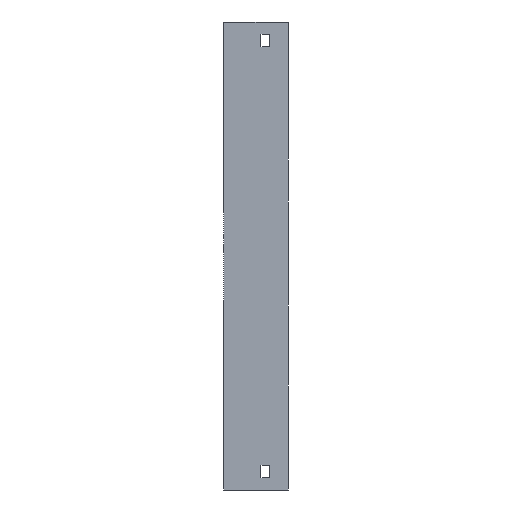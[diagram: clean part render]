
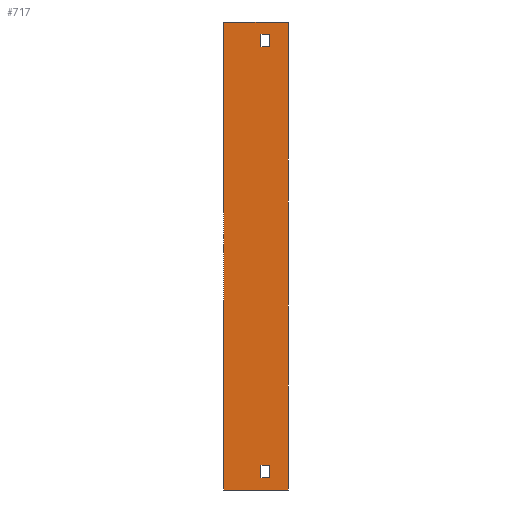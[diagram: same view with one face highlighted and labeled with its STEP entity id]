
A CAD part, left-side view. The second image highlights one B-rep face of the part: STEP entity #717.
In plain terms, the highlighted planar face has unit normal (-1, 0, 0).
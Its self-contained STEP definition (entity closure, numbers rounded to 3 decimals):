
#2 = DIRECTION ( 'NONE',  ( 0., 1., 0. ) ) ;
#7 = DIRECTION ( 'NONE',  ( 0., -1., 0. ) ) ;
#16 = DIRECTION ( 'NONE',  ( 1., 0., 0. ) ) ;
#27 = CARTESIAN_POINT ( 'NONE',  ( -179., 22., 40. ) ) ;
#54 = LINE ( 'NONE', #1207, #1412 ) ;
#65 = EDGE_CURVE ( 'NONE', #1439, #1301, #411, .T. ) ;
#67 = EDGE_CURVE ( 'NONE', #437, #972, #865, .T. ) ;
#85 = CARTESIAN_POINT ( 'NONE',  ( -179., 15., 40. ) ) ;
#101 = VECTOR ( 'NONE', #7, 1000. ) ;
#117 = EDGE_CURVE ( 'NONE', #1592, #1636, #1657, .T. ) ;
#143 = CARTESIAN_POINT ( 'NONE',  ( -179., 15., 40. ) ) ;
#146 = ORIENTED_EDGE ( 'NONE', *, *, #241, .F. ) ;
#148 = VERTEX_POINT ( 'NONE', #1671 ) ;
#188 = DIRECTION ( 'NONE',  ( 0., -1., 0. ) ) ;
#236 = CARTESIAN_POINT ( 'NONE',  ( -179., 22., -319. ) ) ;
#241 = EDGE_CURVE ( 'NONE', #1900, #1439, #54, .T. ) ;
#259 = VECTOR ( 'NONE', #987, 1000. ) ;
#268 = CARTESIAN_POINT ( 'NONE',  ( -179., 22., -309. ) ) ;
#288 = DIRECTION ( 'NONE',  ( 0., 1., 0. ) ) ;
#353 = CARTESIAN_POINT ( 'NONE',  ( -179., 52., -329. ) ) ;
#358 = VERTEX_POINT ( 'NONE', #236 ) ;
#370 = CARTESIAN_POINT ( 'NONE',  ( -179., 15., -309. ) ) ;
#385 = LINE ( 'NONE', #825, #1290 ) ;
#411 = LINE ( 'NONE', #268, #1158 ) ;
#417 = ORIENTED_EDGE ( 'NONE', *, *, #1246, .T. ) ;
#437 = VERTEX_POINT ( 'NONE', #85 ) ;
#479 = FACE_BOUND ( 'NONE', #851, .T. ) ;
#494 = CARTESIAN_POINT ( 'NONE',  ( -179., 15., 30. ) ) ;
#550 = ORIENTED_EDGE ( 'NONE', *, *, #772, .T. ) ;
#578 = ORIENTED_EDGE ( 'NONE', *, *, #65, .F. ) ;
#609 = VECTOR ( 'NONE', #1679, 1000. ) ;
#638 = LINE ( 'NONE', #353, #1792 ) ;
#659 = VERTEX_POINT ( 'NONE', #1072 ) ;
#672 = VECTOR ( 'NONE', #2, 1000. ) ;
#677 = EDGE_CURVE ( 'NONE', #972, #1592, #1528, .T. ) ;
#686 = CARTESIAN_POINT ( 'NONE',  ( -179., 0., -329. ) ) ;
#698 = DIRECTION ( 'NONE',  ( 0., 0., -1. ) ) ;
#699 = EDGE_LOOP ( 'NONE', ( #1639, #1058, #907, #550 ) ) ;
#717 = ADVANCED_FACE ( 'NONE', ( #1235, #479, #1802 ), #1520, .F. ) ;
#731 = VECTOR ( 'NONE', #1483, 1000. ) ;
#764 = AXIS2_PLACEMENT_3D ( 'NONE', #1218, #16, #1845 ) ;
#772 = EDGE_CURVE ( 'NONE', #148, #1713, #638, .T. ) ;
#821 = LINE ( 'NONE', #1254, #259 ) ;
#825 = CARTESIAN_POINT ( 'NONE',  ( -179., 0., -329. ) ) ;
#831 = EDGE_CURVE ( 'NONE', #358, #1900, #1348, .T. ) ;
#850 = EDGE_CURVE ( 'NONE', #1301, #358, #1511, .T. ) ;
#851 = EDGE_LOOP ( 'NONE', ( #1542, #417, #1423, #1354 ) ) ;
#865 = LINE ( 'NONE', #143, #731 ) ;
#900 = CARTESIAN_POINT ( 'NONE',  ( -179., 15., -319. ) ) ;
#907 = ORIENTED_EDGE ( 'NONE', *, *, #1655, .F. ) ;
#922 = DIRECTION ( 'NONE',  ( 0., 0., 1. ) ) ;
#943 = VECTOR ( 'NONE', #1188, 1000. ) ;
#972 = VERTEX_POINT ( 'NONE', #494 ) ;
#987 = DIRECTION ( 'NONE',  ( 0., -1., 0. ) ) ;
#1055 = CARTESIAN_POINT ( 'NONE',  ( -179., 22., 40. ) ) ;
#1058 = ORIENTED_EDGE ( 'NONE', *, *, #1215, .F. ) ;
#1067 = ORIENTED_EDGE ( 'NONE', *, *, #831, .F. ) ;
#1072 = CARTESIAN_POINT ( 'NONE',  ( -179., 52., 50. ) ) ;
#1089 = EDGE_CURVE ( 'NONE', #1713, #1273, #385, .T. ) ;
#1158 = VECTOR ( 'NONE', #288, 1000. ) ;
#1188 = DIRECTION ( 'NONE',  ( 0., 0., 1. ) ) ;
#1207 = CARTESIAN_POINT ( 'NONE',  ( -179., 15., -319. ) ) ;
#1215 = EDGE_CURVE ( 'NONE', #659, #1273, #821, .T. ) ;
#1218 = CARTESIAN_POINT ( 'NONE',  ( -179., 52., -329. ) ) ;
#1222 = LINE ( 'NONE', #1829, #609 ) ;
#1235 = FACE_OUTER_BOUND ( 'NONE', #699, .T. ) ;
#1246 = EDGE_CURVE ( 'NONE', #1636, #437, #1413, .T. ) ;
#1254 = CARTESIAN_POINT ( 'NONE',  ( -179., 52., 50. ) ) ;
#1273 = VERTEX_POINT ( 'NONE', #1872 ) ;
#1290 = VECTOR ( 'NONE', #1418, 1000. ) ;
#1301 = VERTEX_POINT ( 'NONE', #1580 ) ;
#1348 = LINE ( 'NONE', #1617, #101 ) ;
#1354 = ORIENTED_EDGE ( 'NONE', *, *, #677, .T. ) ;
#1412 = VECTOR ( 'NONE', #922, 1000. ) ;
#1413 = LINE ( 'NONE', #1717, #1828 ) ;
#1418 = DIRECTION ( 'NONE',  ( 0., 0., 1. ) ) ;
#1423 = ORIENTED_EDGE ( 'NONE', *, *, #67, .T. ) ;
#1439 = VERTEX_POINT ( 'NONE', #370 ) ;
#1471 = EDGE_LOOP ( 'NONE', ( #1067, #1544, #578, #146 ) ) ;
#1483 = DIRECTION ( 'NONE',  ( 0., 0., -1. ) ) ;
#1511 = LINE ( 'NONE', #1933, #1890 ) ;
#1520 = PLANE ( 'NONE',  #764 ) ;
#1528 = LINE ( 'NONE', #1683, #672 ) ;
#1537 = DIRECTION ( 'NONE',  ( 0., -1., 0. ) ) ;
#1542 = ORIENTED_EDGE ( 'NONE', *, *, #117, .T. ) ;
#1544 = ORIENTED_EDGE ( 'NONE', *, *, #850, .F. ) ;
#1580 = CARTESIAN_POINT ( 'NONE',  ( -179., 22., -309. ) ) ;
#1592 = VERTEX_POINT ( 'NONE', #1816 ) ;
#1617 = CARTESIAN_POINT ( 'NONE',  ( -179., 22., -319. ) ) ;
#1636 = VERTEX_POINT ( 'NONE', #27 ) ;
#1639 = ORIENTED_EDGE ( 'NONE', *, *, #1089, .T. ) ;
#1655 = EDGE_CURVE ( 'NONE', #148, #659, #1222, .T. ) ;
#1657 = LINE ( 'NONE', #1055, #943 ) ;
#1671 = CARTESIAN_POINT ( 'NONE',  ( -179., 52., -329. ) ) ;
#1679 = DIRECTION ( 'NONE',  ( 0., 0., 1. ) ) ;
#1683 = CARTESIAN_POINT ( 'NONE',  ( -179., 22., 30. ) ) ;
#1713 = VERTEX_POINT ( 'NONE', #686 ) ;
#1717 = CARTESIAN_POINT ( 'NONE',  ( -179., 22., 40. ) ) ;
#1792 = VECTOR ( 'NONE', #1537, 1000. ) ;
#1802 = FACE_BOUND ( 'NONE', #1471, .T. ) ;
#1816 = CARTESIAN_POINT ( 'NONE',  ( -179., 22., 30. ) ) ;
#1828 = VECTOR ( 'NONE', #188, 1000. ) ;
#1829 = CARTESIAN_POINT ( 'NONE',  ( -179., 52., -329. ) ) ;
#1845 = DIRECTION ( 'NONE',  ( 0., 0., -1. ) ) ;
#1872 = CARTESIAN_POINT ( 'NONE',  ( -179., 0., 50. ) ) ;
#1890 = VECTOR ( 'NONE', #698, 1000. ) ;
#1900 = VERTEX_POINT ( 'NONE', #900 ) ;
#1933 = CARTESIAN_POINT ( 'NONE',  ( -179., 22., -319. ) ) ;
